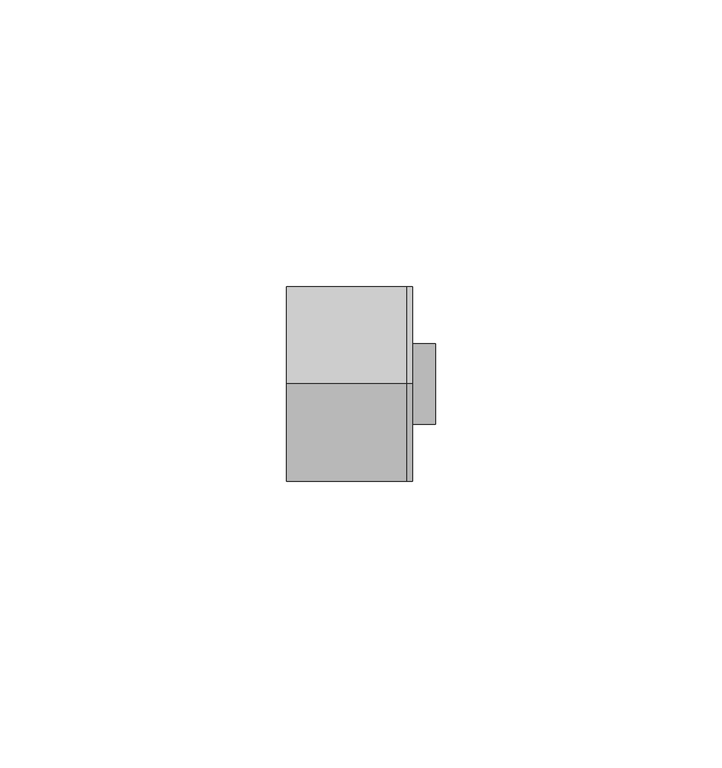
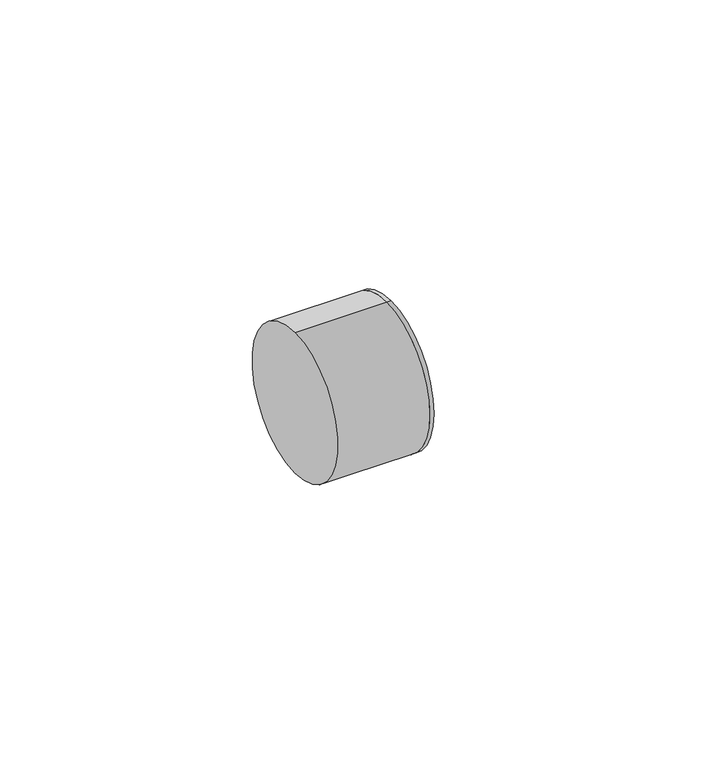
"""IFC4 building model written with IfcOpenShell, lengths in millimetres: pipe fitting geometry, AmancoWavin_Unionesdetubería_TigrisFlexZNoUsarConectorRosHembraManifold : Tigris K5."""

from ifc_helpers import new_model, si_unit, point, frame, origin, origin_2d, place, context, project, spatial, circle_curve, trimmed, segment, composite_curve, outline, extrude, source, transform, mapped, element, save


def pipe_fitting_518063be(model_context):
    return source(origin(), model_context, "Body", "SweptSolid", [
        extrude(outline(composite_curve([segment(trimmed(circle_curve(origin_2d(), 17.0), [point((0.0, -17.0))], [point((0.0, 17.0))], False, "CARTESIAN"), True, "CONTINUOUS"), segment(trimmed(circle_curve(origin_2d(), 17.0), [point((0.0, 17.0))], [point((0.0, -17.0))], False, "CARTESIAN"), True, "CONTINUOUS")], self_intersect=False)), frame((-23.5, 0.0, 0.0), z_axis=(1.0, 0.0, 0.0), x_axis=(0.0, 1.0, 0.0)), (0.0, 0.0, 1.0), 21.0),
        extrude(outline(composite_curve([segment(trimmed(circle_curve(origin_2d(), 17.0), [point((0.0, -17.0))], [point((0.0, 17.0))], False, "CARTESIAN"), True, "CONTINUOUS"), segment(trimmed(circle_curve(origin_2d(), 17.0), [point((0.0, 17.0))], [point((0.0, -17.0))], False, "CARTESIAN"), True, "CONTINUOUS")], self_intersect=False)), frame((-2.5, 0.0, 0.0), z_axis=(1.0, 0.0, 0.0), x_axis=(0.0, 1.0, 0.0)), (0.0, 0.0, 1.0), 1.0),
        extrude(outline(composite_curve([segment(trimmed(circle_curve(origin_2d(), 7.0), [point((-7.0, 0.0))], [point((7.0, 0.0))], False, "CARTESIAN"), True, "CONTINUOUS"), segment(trimmed(circle_curve(origin_2d(), 7.0), [point((7.0, 0.0))], [point((-7.0, 0.0))], False, "CARTESIAN"), True, "CONTINUOUS")], self_intersect=False)), frame((-2.5, 0.0, 0.0), z_axis=(1.0, 0.0, 0.0), x_axis=(0.0, 1.0, 0.0)), (0.0, 0.0, 1.0), 5.0),
    ])


if __name__ == "__main__":
    model = new_model("IFC4")
    model_context = context("Model", 3, world=origin())
    ifc_project = project(units=[si_unit("LENGTHUNIT", "METRE", prefix="MILLI")], contexts=[model_context])
    site = spatial("IfcSite", under=ifc_project)
    building = spatial("IfcBuilding", under=site)
    placement = place(None, origin())
    pipe_fitting_shape = pipe_fitting_518063be(model_context)
    element("IfcPipeFitting", 1, ObjectType="AmancoWavin_Unionesdetubería_TigrisFlexZNoUsarConectorRosHembraManifold : Tigris K5", at=placement, inside=building, context=model_context, shape_type="MappedRepresentation", body=[
        mapped(pipe_fitting_shape, transform((0.0, 0.0, 0.0), x_axis=(1.0, 0.0, 0.0), y_axis=(0.0, 1.0, 0.0), z_axis=(0.0, 0.0, 1.0))),
    ])
    save(model, "model.ifc")
